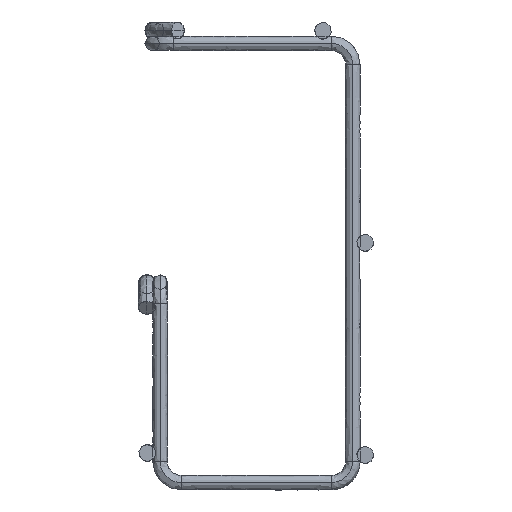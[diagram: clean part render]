
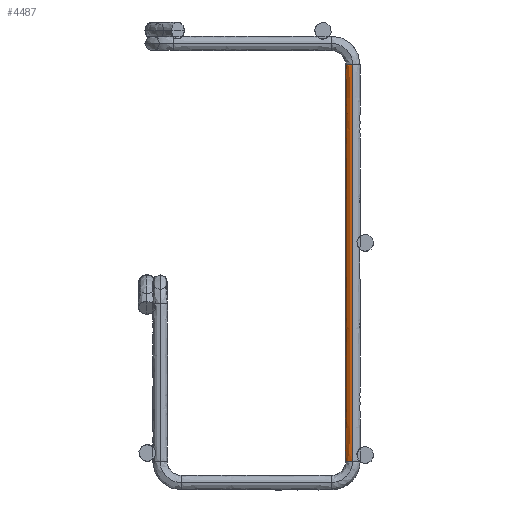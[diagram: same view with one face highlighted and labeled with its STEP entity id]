
A CAD part, front view. The second image highlights one B-rep face of the part: STEP entity #4487.
In plain terms, the highlighted free-form (B-spline) face has degree [2, 3] with [5, 4] control points.
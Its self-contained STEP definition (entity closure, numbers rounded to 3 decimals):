
#4487=ADVANCED_FACE($,(#5263),#13693,.T.);
#5263=FACE_OUTER_BOUND($,#6039,.T.);
#6039=EDGE_LOOP($,(#6995,#6996,#6997,#6998));
#6995=ORIENTED_EDGE($,*,*,#10005,.F.);
#6996=ORIENTED_EDGE($,*,*,#10003,.T.);
#6997=ORIENTED_EDGE($,*,*,#10007,.F.);
#6998=ORIENTED_EDGE($,*,*,#10006,.F.);
#10003=EDGE_CURVE($,#12247,#12248,#14885,.T.);
#10005=EDGE_CURVE($,#12247,#12249,#14887,.T.);
#10006=EDGE_CURVE($,#12249,#12250,#14888,.T.);
#10007=EDGE_CURVE($,#12250,#12248,#14889,.T.);
#12247=VERTEX_POINT($,#19597);
#12248=VERTEX_POINT($,#19598);
#12249=VERTEX_POINT($,#19599);
#12250=VERTEX_POINT($,#19600);
#13693=(
BOUNDED_SURFACE()
B_SPLINE_SURFACE(2,3,((#19557,#19558,#19559,#19560),(#19561,#19562,#19563,
#19564),(#19565,#19566,#19567,#19568),(#19569,#19570,#19571,#19572),(#19573,
#19574,#19575,#19576)),.UNSPECIFIED.,.F.,.F.,.F.)
B_SPLINE_SURFACE_WITH_KNOTS((3,2,3),(4,4),(-5.498,-2.749,
0.),(0.,93.5),.UNSPECIFIED.)
GEOMETRIC_REPRESENTATION_ITEM()
RATIONAL_B_SPLINE_SURFACE(((1.,1.,1.,1.),(0.707,0.707,
0.707,0.707),(1.,1.,1.,1.),(0.707,0.707,
0.707,0.707),(1.,1.,1.,1.)))
REPRESENTATION_ITEM($)
SURFACE()
);
#14885=(
BOUNDED_CURVE()
B_SPLINE_CURVE(3,(#19529,#19530,#19531,#19532),.UNSPECIFIED.,.F.,.F.)
B_SPLINE_CURVE_WITH_KNOTS((4,4),(0.,93.5),.UNSPECIFIED.)
CURVE()
GEOMETRIC_REPRESENTATION_ITEM()
RATIONAL_B_SPLINE_CURVE((1.,1.,1.,1.))
REPRESENTATION_ITEM($)
);
#14887=(
BOUNDED_CURVE()
B_SPLINE_CURVE(2,(#19538,#19539,#19540,#19541,#19542),.UNSPECIFIED.,.F.,
.F.)
B_SPLINE_CURVE_WITH_KNOTS((3,2,3),(0.,2.749,5.498),
.UNSPECIFIED.)
CURVE()
GEOMETRIC_REPRESENTATION_ITEM()
RATIONAL_B_SPLINE_CURVE((1.,0.707,1.,0.707,1.))
REPRESENTATION_ITEM($)
);
#14888=(
BOUNDED_CURVE()
B_SPLINE_CURVE(3,(#19543,#19544,#19545,#19546),.UNSPECIFIED.,.F.,.F.)
B_SPLINE_CURVE_WITH_KNOTS((4,4),(0.,93.5),.UNSPECIFIED.)
CURVE()
GEOMETRIC_REPRESENTATION_ITEM()
RATIONAL_B_SPLINE_CURVE((1.,1.,1.,1.))
REPRESENTATION_ITEM($)
);
#14889=(
BOUNDED_CURVE()
B_SPLINE_CURVE(2,(#19547,#19548,#19549,#19550,#19551),.UNSPECIFIED.,.F.,
.F.)
B_SPLINE_CURVE_WITH_KNOTS((3,2,3),(-5.498,-2.749,0.),
.UNSPECIFIED.)
CURVE()
GEOMETRIC_REPRESENTATION_ITEM()
RATIONAL_B_SPLINE_CURVE((1.,0.707,1.,0.707,1.))
REPRESENTATION_ITEM($)
);
#19529=CARTESIAN_POINT($,(45.697,0.167,5.));
#19530=CARTESIAN_POINT($,(45.697,0.168,36.167));
#19531=CARTESIAN_POINT($,(45.697,0.169,67.334));
#19532=CARTESIAN_POINT($,(45.697,0.17,98.5));
#19538=CARTESIAN_POINT($,(45.697,0.167,5.));
#19539=CARTESIAN_POINT($,(43.947,0.167,5.));
#19540=CARTESIAN_POINT($,(43.947,1.917,5.));
#19541=CARTESIAN_POINT($,(43.947,3.667,5.));
#19542=CARTESIAN_POINT($,(45.697,3.667,5.));
#19543=CARTESIAN_POINT($,(45.697,3.667,5.));
#19544=CARTESIAN_POINT($,(45.697,3.668,36.166));
#19545=CARTESIAN_POINT($,(45.697,3.669,67.333));
#19546=CARTESIAN_POINT($,(45.697,3.67,98.5));
#19547=CARTESIAN_POINT($,(45.697,3.67,98.5));
#19548=CARTESIAN_POINT($,(43.947,3.67,98.5));
#19549=CARTESIAN_POINT($,(43.947,1.92,98.5));
#19550=CARTESIAN_POINT($,(43.947,0.17,98.5));
#19551=CARTESIAN_POINT($,(45.697,0.17,98.5));
#19557=CARTESIAN_POINT($,(45.697,3.667,5.));
#19558=CARTESIAN_POINT($,(45.697,3.668,36.166));
#19559=CARTESIAN_POINT($,(45.697,3.669,67.333));
#19560=CARTESIAN_POINT($,(45.697,3.67,98.5));
#19561=CARTESIAN_POINT($,(43.947,3.667,5.));
#19562=CARTESIAN_POINT($,(43.947,3.668,36.166));
#19563=CARTESIAN_POINT($,(43.947,3.669,67.333));
#19564=CARTESIAN_POINT($,(43.947,3.67,98.5));
#19565=CARTESIAN_POINT($,(43.947,1.917,5.));
#19566=CARTESIAN_POINT($,(43.947,1.918,36.167));
#19567=CARTESIAN_POINT($,(43.947,1.919,67.333));
#19568=CARTESIAN_POINT($,(43.947,1.92,98.5));
#19569=CARTESIAN_POINT($,(43.947,0.167,5.));
#19570=CARTESIAN_POINT($,(43.947,0.168,36.167));
#19571=CARTESIAN_POINT($,(43.947,0.169,67.334));
#19572=CARTESIAN_POINT($,(43.947,0.17,98.5));
#19573=CARTESIAN_POINT($,(45.697,0.167,5.));
#19574=CARTESIAN_POINT($,(45.697,0.168,36.167));
#19575=CARTESIAN_POINT($,(45.697,0.169,67.334));
#19576=CARTESIAN_POINT($,(45.697,0.17,98.5));
#19597=CARTESIAN_POINT($,(45.697,0.167,5.));
#19598=CARTESIAN_POINT($,(45.697,0.17,98.5));
#19599=CARTESIAN_POINT($,(45.697,3.667,5.));
#19600=CARTESIAN_POINT($,(45.697,3.67,98.5));
